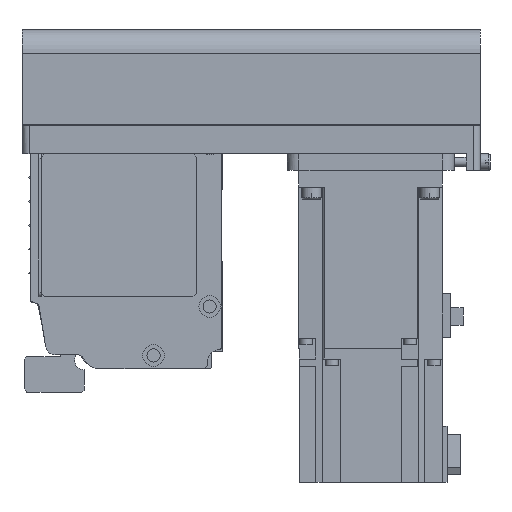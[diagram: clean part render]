
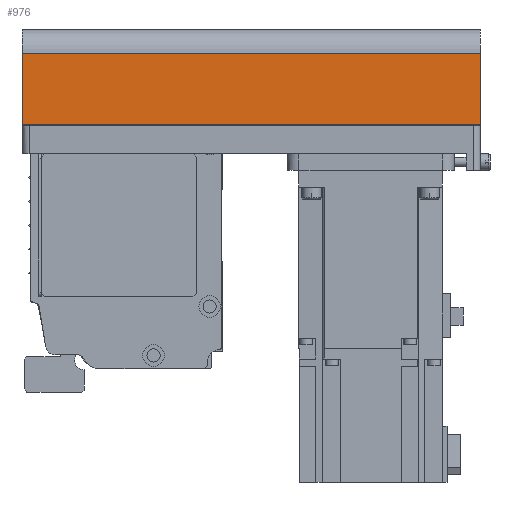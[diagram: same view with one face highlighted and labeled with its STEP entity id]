
A CAD part, left-side view. The second image highlights one B-rep face of the part: STEP entity #976.
In plain terms, the highlighted planar face has unit normal (-1, 0, 0) as drawn and (0, -1, 0) by its records, which use the part's own axes.
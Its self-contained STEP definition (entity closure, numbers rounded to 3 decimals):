
#976 = ADVANCED_FACE( '', ( #2499 ), #2500, .T. );
#2499 = FACE_OUTER_BOUND( '', #4771, .T. );
#2500 = PLANE( '', #4772 );
#4771 = EDGE_LOOP( '', ( #7329, #7330, #7331, #7332 ) );
#4772 = AXIS2_PLACEMENT_3D( '', #7333, #7334, #7335 );
#7329 = ORIENTED_EDGE( '', *, *, #13354, .F. );
#7330 = ORIENTED_EDGE( '', *, *, #13290, .F. );
#7331 = ORIENTED_EDGE( '', *, *, #13355, .T. );
#7332 = ORIENTED_EDGE( '', *, *, #13356, .T. );
#7333 = CARTESIAN_POINT( '', ( -192., -40., -12.1 ) );
#7334 = DIRECTION( '', ( 0., -1., 0. ) );
#7335 = DIRECTION( '', ( 0., 0., -1. ) );
#13290 = EDGE_CURVE( '', #15883, #15885, #15886, .T. );
#13354 = EDGE_CURVE( '', #15885, #15996, #15997, .T. );
#13355 = EDGE_CURVE( '', #15883, #15998, #15999, .T. );
#13356 = EDGE_CURVE( '', #15998, #15996, #16000, .T. );
#15883 = VERTEX_POINT( '', #19578 );
#15885 = VERTEX_POINT( '', #19581 );
#15886 = LINE( '', #19582, #19583 );
#15996 = VERTEX_POINT( '', #19736 );
#15997 = LINE( '', #19737, #19738 );
#15998 = VERTEX_POINT( '', #19739 );
#15999 = LINE( '', #19740, #19741 );
#16000 = LINE( '', #19742, #19743 );
#19578 = CARTESIAN_POINT( '', ( -192., -40., -12.1 ) );
#19581 = CARTESIAN_POINT( '', ( 0., -40., -12.1 ) );
#19582 = CARTESIAN_POINT( '', ( -192., -40., -12.1 ) );
#19583 = VECTOR( '', #24175, 1000. );
#19736 = CARTESIAN_POINT( '', ( 0., -40., -42. ) );
#19737 = CARTESIAN_POINT( '', ( 0., -40., -12.1 ) );
#19738 = VECTOR( '', #24243, 1000. );
#19739 = CARTESIAN_POINT( '', ( -192., -40., -42. ) );
#19740 = CARTESIAN_POINT( '', ( -192., -40., -12.1 ) );
#19741 = VECTOR( '', #24244, 1000. );
#19742 = CARTESIAN_POINT( '', ( -192., -40., -42. ) );
#19743 = VECTOR( '', #24245, 1000. );
#24175 = DIRECTION( '', ( 1., 0., 0. ) );
#24243 = DIRECTION( '', ( 0., 0., -1. ) );
#24244 = DIRECTION( '', ( 0., 0., -1. ) );
#24245 = DIRECTION( '', ( 1., 0., 0. ) );
